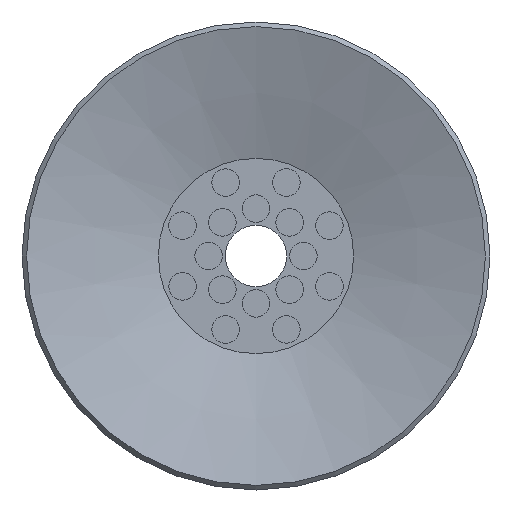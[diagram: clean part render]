
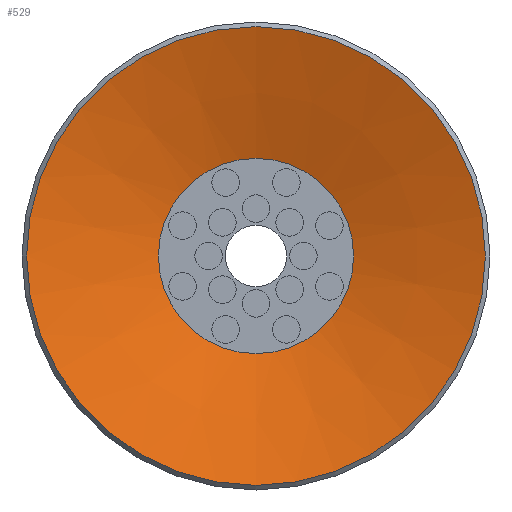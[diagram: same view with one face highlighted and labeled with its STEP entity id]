
A CAD part, front view. The second image highlights one B-rep face of the part: STEP entity #529.
In plain terms, the highlighted conical face has half-angle 72 degrees and reference radius 7.5 mm.
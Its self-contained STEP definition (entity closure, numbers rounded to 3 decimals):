
#529=ADVANCED_FACE('',(#826,#827),#828,.F.);
#826=FACE_BOUND('',#1274,.T.);
#827=FACE_OUTER_BOUND('',#1275,.T.);
#828=CONICAL_SURFACE('',#1276,7.5,1.257);
#1274=EDGE_LOOP('',(#2234));
#1275=EDGE_LOOP('',(#2235));
#1276=AXIS2_PLACEMENT_3D('',#2236,#2237,#2238);
#2234=ORIENTED_EDGE('',*,*,#2907,.T.);
#2235=ORIENTED_EDGE('',*,*,#2908,.F.);
#2236=CARTESIAN_POINT('',(0.0,0.,0.));
#2237=DIRECTION('',(0.0,0.,-1.0));
#2238=DIRECTION('',(0.0,1.0,0.));
#2907=EDGE_CURVE('',#3274,#3274,#3275,.T.);
#2908=EDGE_CURVE('',#3276,#3276,#3277,.T.);
#3274=VERTEX_POINT('',#4042);
#3275=CIRCLE('',#4043,3.191);
#3276=VERTEX_POINT('',#4044);
#3277=CIRCLE('',#4045,7.5);
#4042=CARTESIAN_POINT('',(0.0,-3.191,1.4));
#4043=AXIS2_PLACEMENT_3D('',#4815,#4816,#4817);
#4044=CARTESIAN_POINT('',(0.0,-7.5,0.));
#4045=AXIS2_PLACEMENT_3D('',#4818,#4819,#4820);
#4815=CARTESIAN_POINT('',(0.0,0.,1.4));
#4816=DIRECTION('',(0.0,0.,1.0));
#4817=DIRECTION('',(0.0,-1.0,0.));
#4818=CARTESIAN_POINT('',(0.0,0.,0.));
#4819=DIRECTION('',(0.0,0.,1.0));
#4820=DIRECTION('',(0.0,-1.0,0.));
